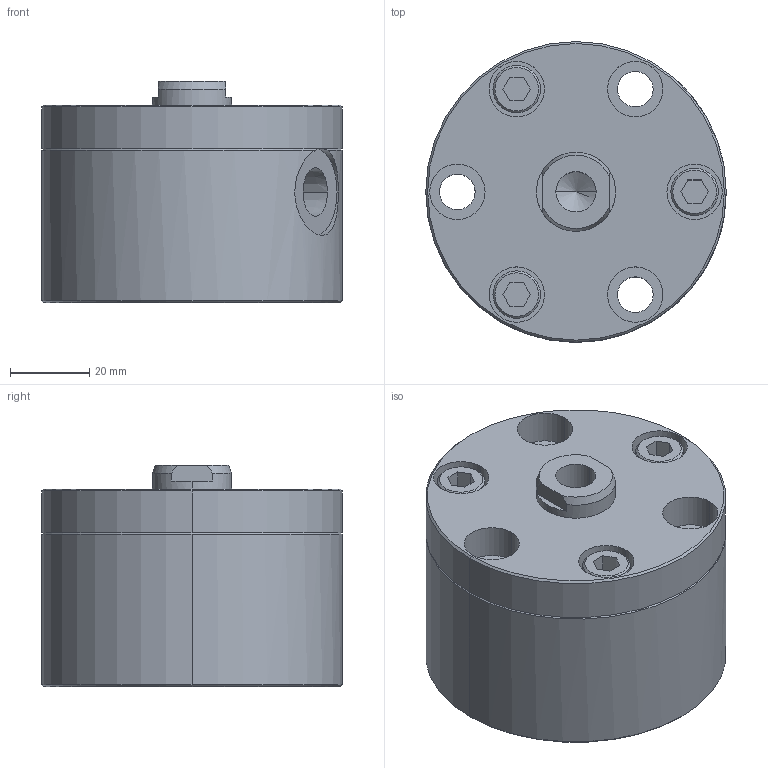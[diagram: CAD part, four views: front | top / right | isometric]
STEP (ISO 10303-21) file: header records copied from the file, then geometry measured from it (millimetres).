
FILE_DESCRIPTION (( 'STEP AP203' ), '1' );
FILE_NAME ('4360 421.STEP', '2016-01-28T12:20:17', ( '' ), ( '' ), 'SwSTEP 2.0', 'SolidWorks 2015', '' );
FILE_SCHEMA (( 'CONFIG_CONTROL_DESIGN' ));
Length unit declared in the file: millimetre
Products named in the file (1): 4360 421
Bounding box: 76 x 76 x 56 mm (x, y, z)
Volume: 205048.8 mm3; surface area: 30812.5 mm2
Topology: 1 solids, 1 shells, 116 faces, 263 edges, 166 vertices
Faces by surface type: cylinder 46, plane 45, cone 25
Entity records: 3500 total; most frequent: CARTESIAN_POINT 744, DIRECTION 596, ORIENTED_EDGE 514, EDGE_CURVE 257, AXIS2_PLACEMENT_3D 233, VERTEX_POINT 166, EDGE_LOOP 145, LINE 130
